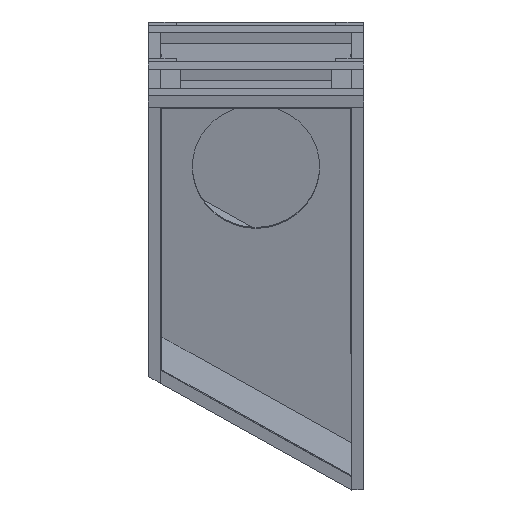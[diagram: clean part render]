
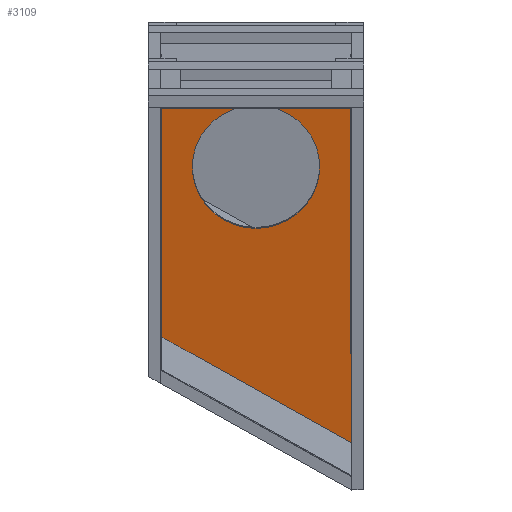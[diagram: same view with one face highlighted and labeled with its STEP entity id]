
A CAD part, top view. The second image highlights one B-rep face of the part: STEP entity #3109.
In plain terms, the highlighted planar face has unit normal (0, -0.259, 0.966) as drawn and (0, 0, 1) by its records, which use the part's own axes.
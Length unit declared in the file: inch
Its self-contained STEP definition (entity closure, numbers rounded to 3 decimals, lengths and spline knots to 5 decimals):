
#21=FACE_BOUND('',#614,.T.);
#23=CIRCLE('',#3686,8.);
#426=FACE_OUTER_BOUND('',#613,.T.);
#613=EDGE_LOOP('',(#2314,#2315,#2316,#2317));
#614=EDGE_LOOP('',(#2318));
#842=LINE('',#5078,#1215);
#845=LINE('',#5084,#1218);
#848=LINE('',#5090,#1221);
#851=LINE('',#5094,#1224);
#1215=VECTOR('',#4132,0.3937);
#1218=VECTOR('',#4137,0.3937);
#1221=VECTOR('',#4142,0.3937);
#1224=VECTOR('',#4147,0.3937);
#1557=VERTEX_POINT('',#5066);
#1561=VERTEX_POINT('',#5075);
#1562=VERTEX_POINT('',#5077);
#1564=VERTEX_POINT('',#5083);
#1566=VERTEX_POINT('',#5089);
#1835=EDGE_CURVE('',#1557,#1557,#23,.T.);
#1840=EDGE_CURVE('',#1562,#1561,#842,.T.);
#1843=EDGE_CURVE('',#1564,#1562,#845,.T.);
#1846=EDGE_CURVE('',#1566,#1564,#848,.T.);
#1849=EDGE_CURVE('',#1561,#1566,#851,.T.);
#2314=ORIENTED_EDGE('',*,*,#1849,.T.);
#2315=ORIENTED_EDGE('',*,*,#1846,.T.);
#2316=ORIENTED_EDGE('',*,*,#1843,.T.);
#2317=ORIENTED_EDGE('',*,*,#1840,.T.);
#2318=ORIENTED_EDGE('',*,*,#1835,.T.);
#2922=PLANE('',#3692);
#3109=ADVANCED_FACE('',(#426,#21),#2922,.T.);
#3686=AXIS2_PLACEMENT_3D('',#5067,#4123,#4124);
#3692=AXIS2_PLACEMENT_3D('',#5095,#4148,#4149);
#4123=DIRECTION('center_axis',(0.,0.,-1.));
#4124=DIRECTION('ref_axis',(1.,0.,0.));
#4132=DIRECTION('',(0.866,-0.5,0.));
#4137=DIRECTION('',(0.,-1.,0.));
#4142=DIRECTION('',(-1.,0.,0.));
#4147=DIRECTION('',(0.,1.,0.));
#4148=DIRECTION('center_axis',(0.,0.,1.));
#4149=DIRECTION('ref_axis',(1.,0.,0.));
#5066=CARTESIAN_POINT('',(-20.,36.,0.5));
#5067=CARTESIAN_POINT('Origin',(-12.,36.,0.5));
#5075=CARTESIAN_POINT('',(0.,0.,0.5));
#5077=CARTESIAN_POINT('',(-24.,13.85641,0.5));
#5078=CARTESIAN_POINT('',(0.,0.,0.5));
#5083=CARTESIAN_POINT('',(-24.,48.,0.5));
#5084=CARTESIAN_POINT('',(-24.,13.85641,0.5));
#5089=CARTESIAN_POINT('',(0.,48.,0.5));
#5090=CARTESIAN_POINT('',(-24.,48.,0.5));
#5094=CARTESIAN_POINT('',(0.,0.,0.5));
#5095=CARTESIAN_POINT('Origin',(-12.,24.,0.5));
